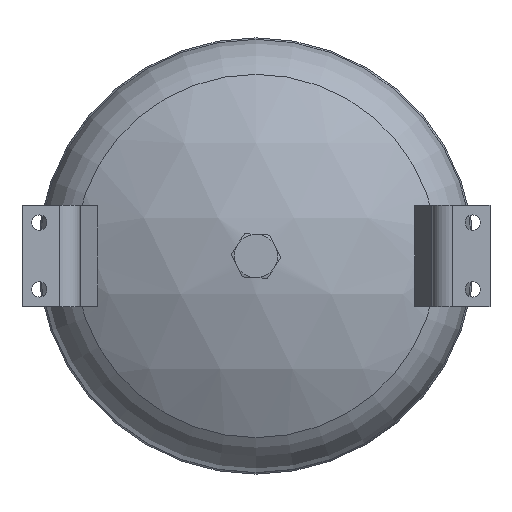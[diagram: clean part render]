
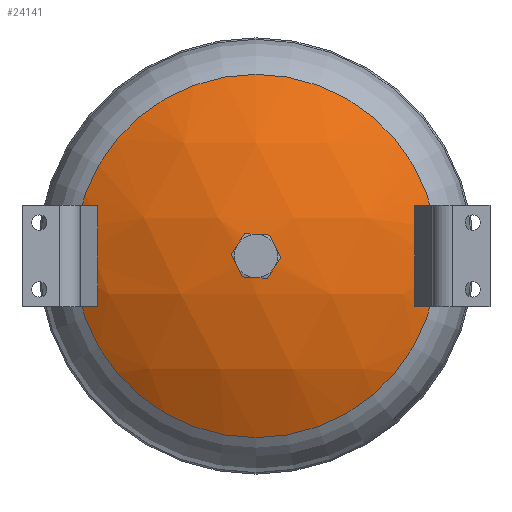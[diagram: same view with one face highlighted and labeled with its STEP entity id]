
A CAD part, front view. The second image highlights one B-rep face of the part: STEP entity #24141.
In plain terms, the highlighted spherical face has radius 244 mm.
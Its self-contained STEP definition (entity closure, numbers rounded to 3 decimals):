
#60=SPHERICAL_SURFACE('',#25870,244.);
#1627=CIRCLE('',#25871,125.773);
#1628=CIRCLE('',#25872,243.161);
#1629=CIRCLE('',#25873,29.537);
#1630=CIRCLE('',#25874,242.363);
#1631=CIRCLE('',#25875,29.537);
#1632=CIRCLE('',#25876,243.161);
#1633=CIRCLE('',#25877,29.537);
#1634=CIRCLE('',#25878,242.363);
#1635=CIRCLE('',#25879,29.537);
#1636=CIRCLE('',#25880,10.);
#5694=FACE_BOUND('',#8455,.T.);
#5695=FACE_BOUND('',#8456,.T.);
#5696=FACE_BOUND('',#8457,.T.);
#6999=FACE_OUTER_BOUND('',#8454,.T.);
#8454=EDGE_LOOP('',(#22376));
#8455=EDGE_LOOP('',(#22377,#22378,#22379,#22380));
#8456=EDGE_LOOP('',(#22381,#22382,#22383,#22384));
#8457=EDGE_LOOP('',(#22385));
#11830=VERTEX_POINT('',#51766);
#11831=VERTEX_POINT('',#51768);
#11832=VERTEX_POINT('',#51769);
#11833=VERTEX_POINT('',#51771);
#11834=VERTEX_POINT('',#51773);
#11835=VERTEX_POINT('',#51776);
#11836=VERTEX_POINT('',#51777);
#11837=VERTEX_POINT('',#51779);
#11838=VERTEX_POINT('',#51781);
#11839=VERTEX_POINT('',#51784);
#15383=EDGE_CURVE('',#11830,#11830,#1627,.T.);
#15384=EDGE_CURVE('',#11831,#11832,#1628,.T.);
#15385=EDGE_CURVE('',#11832,#11833,#1629,.T.);
#15386=EDGE_CURVE('',#11833,#11834,#1630,.T.);
#15387=EDGE_CURVE('',#11834,#11831,#1631,.T.);
#15388=EDGE_CURVE('',#11835,#11836,#1632,.T.);
#15389=EDGE_CURVE('',#11836,#11837,#1633,.T.);
#15390=EDGE_CURVE('',#11837,#11838,#1634,.T.);
#15391=EDGE_CURVE('',#11838,#11835,#1635,.T.);
#15392=EDGE_CURVE('',#11839,#11839,#1636,.T.);
#22376=ORIENTED_EDGE('',*,*,#15383,.T.);
#22377=ORIENTED_EDGE('',*,*,#15384,.T.);
#22378=ORIENTED_EDGE('',*,*,#15385,.T.);
#22379=ORIENTED_EDGE('',*,*,#15386,.T.);
#22380=ORIENTED_EDGE('',*,*,#15387,.T.);
#22381=ORIENTED_EDGE('',*,*,#15388,.T.);
#22382=ORIENTED_EDGE('',*,*,#15389,.T.);
#22383=ORIENTED_EDGE('',*,*,#15390,.T.);
#22384=ORIENTED_EDGE('',*,*,#15391,.T.);
#22385=ORIENTED_EDGE('',*,*,#15392,.T.);
#24141=ADVANCED_FACE('',(#6999,#5694,#5695,#5696),#60,.T.);
#25870=AXIS2_PLACEMENT_3D('',#51765,#30949,#30950);
#25871=AXIS2_PLACEMENT_3D('',#51767,#30951,#30952);
#25872=AXIS2_PLACEMENT_3D('',#51770,#30953,#30954);
#25873=AXIS2_PLACEMENT_3D('',#51772,#30955,#30956);
#25874=AXIS2_PLACEMENT_3D('',#51774,#30957,#30958);
#25875=AXIS2_PLACEMENT_3D('',#51775,#30959,#30960);
#25876=AXIS2_PLACEMENT_3D('',#51778,#30961,#30962);
#25877=AXIS2_PLACEMENT_3D('',#51780,#30963,#30964);
#25878=AXIS2_PLACEMENT_3D('',#51782,#30965,#30966);
#25879=AXIS2_PLACEMENT_3D('',#51783,#30967,#30968);
#25880=AXIS2_PLACEMENT_3D('',#51785,#30969,#30970);
#30949=DIRECTION('center_axis',(0.,0.,-1.));
#30950=DIRECTION('ref_axis',(1.,0.,0.));
#30951=DIRECTION('center_axis',(0.,-1.,0.));
#30952=DIRECTION('ref_axis',(-1.,0.,0.));
#30953=DIRECTION('center_axis',(0.927,-0.375,0.));
#30954=DIRECTION('ref_axis',(0.,0.,1.));
#30955=DIRECTION('center_axis',(0.375,0.927,0.));
#30956=DIRECTION('ref_axis',(0.,0.,-1.));
#30957=DIRECTION('center_axis',(-0.927,0.375,0.));
#30958=DIRECTION('ref_axis',(0.,0.,-1.));
#30959=DIRECTION('center_axis',(0.375,0.927,0.));
#30960=DIRECTION('ref_axis',(0.,0.,-1.));
#30961=DIRECTION('center_axis',(-0.927,-0.375,0.));
#30962=DIRECTION('ref_axis',(0.,0.,-1.));
#30963=DIRECTION('center_axis',(-0.375,0.927,0.));
#30964=DIRECTION('ref_axis',(0.,0.,-1.));
#30965=DIRECTION('center_axis',(0.927,0.375,0.));
#30966=DIRECTION('ref_axis',(0.,0.,1.));
#30967=DIRECTION('center_axis',(-0.375,0.927,0.));
#30968=DIRECTION('ref_axis',(0.,0.,-1.));
#30969=DIRECTION('center_axis',(0.,1.,0.));
#30970=DIRECTION('ref_axis',(-1.,0.,0.));
#51765=CARTESIAN_POINT('Origin',(0.,83.1,0.));
#51766=CARTESIAN_POINT('',(-125.773,-125.986,0.));
#51767=CARTESIAN_POINT('Origin',(0.,-125.986,
0.));
#51768=CARTESIAN_POINT('',(-109.474,-133.897,21.537));
#51769=CARTESIAN_POINT('',(-109.474,-133.897,-21.537));
#51770=CARTESIAN_POINT('Origin',(-18.742,90.672,0.));
#51771=CARTESIAN_POINT('',(-116.891,-130.9,-8.741));
#51772=CARTESIAN_POINT('Origin',(-90.732,-141.469,0.));
#51773=CARTESIAN_POINT('',(-116.891,-130.9,8.741));
#51774=CARTESIAN_POINT('Origin',(-26.16,93.669,0.));
#51775=CARTESIAN_POINT('Origin',(-90.732,-141.469,0.));
#51776=CARTESIAN_POINT('',(109.474,-133.897,-21.537));
#51777=CARTESIAN_POINT('',(109.474,-133.897,21.537));
#51778=CARTESIAN_POINT('Origin',(18.742,90.672,0.));
#51779=CARTESIAN_POINT('',(116.891,-130.9,8.741));
#51780=CARTESIAN_POINT('Origin',(90.732,-141.469,0.));
#51781=CARTESIAN_POINT('',(116.891,-130.9,-8.741));
#51782=CARTESIAN_POINT('Origin',(26.16,93.669,0.));
#51783=CARTESIAN_POINT('Origin',(90.732,-141.469,0.));
#51784=CARTESIAN_POINT('',(10.,-160.695,0.));
#51785=CARTESIAN_POINT('Origin',(0.,-160.695,
0.));
